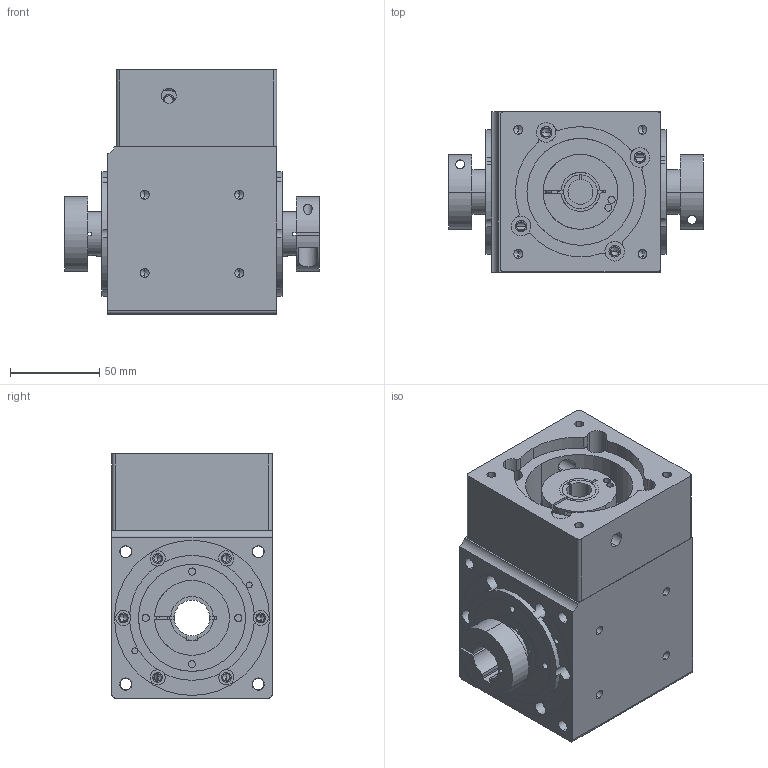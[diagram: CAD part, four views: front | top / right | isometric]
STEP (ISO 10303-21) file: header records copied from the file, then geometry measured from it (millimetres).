
FILE_DESCRIPTION (( 'STEP AP203' ), '1' );
FILE_NAME ('90双孔 （步进14轴）.STEP', '2023-07-31T03:57:43', ( 'User' ), ( 'China' ), 'SwSTEP 2.0', 'SolidWorks 2015', '' );
FILE_SCHEMA (( 'CONFIG_CONTROL_DESIGN' ));
Length unit declared in the file: millimetre
Products named in the file (13): 25-40-7蚐猾; PVFDo9o眊极; ZK090怀堤粣-湍瑩羞; PVFD090͹̨; 19-14粣杶; deep groove ball bearings gb_Rolling bearings 6005 GB 276-94; PVFD090后法兰（步进）; tapered roller bearings gb_Rolling bearings 32005 GB 297-94; 90双孔   （步进14轴）; PVFD090標杶; PVFD090蹟譫; PVFD090输入轴; PVFD090標杶2
Assembly tree (17 placements, depth 2):
  90双孔   （步进14轴）
    PVFDo9o眊极
    PVFD090͹̨  x2
    deep groove ball bearings gb_Rolling bearings 6005 GB 276-94  x2
    tapered roller bearings gb_Rolling bearings 32005 GB 297-94
    PVFD090標杶
    PVFD090蹟譫  x2
    PVFD090输入轴
    PVFD090標杶2  x2
    25-40-7蚐猾  x2
    ZK090怀堤粣-湍瑩羞
    19-14粣杶
    PVFD090后法兰（步进）
Bounding box: 143 x 90 x 137 mm (x, y, z)
Volume: 828700.3 mm3; surface area: 256593.3 mm2
Topology: 17 solids, 17 shells, 1052 faces, 3559 edges, 2320 vertices
Faces by surface type: cylinder 403, torus 224, plane 221, cone 128, sphere 76
Entity records: 34588 total; most frequent: CARTESIAN_POINT 10903, ORIENTED_EDGE 4956, DIRECTION 4531, EDGE_CURVE 2478, AXIS2_PLACEMENT_3D 1975, VERTEX_POINT 1631, CIRCLE 1148, EDGE_LOOP 979
